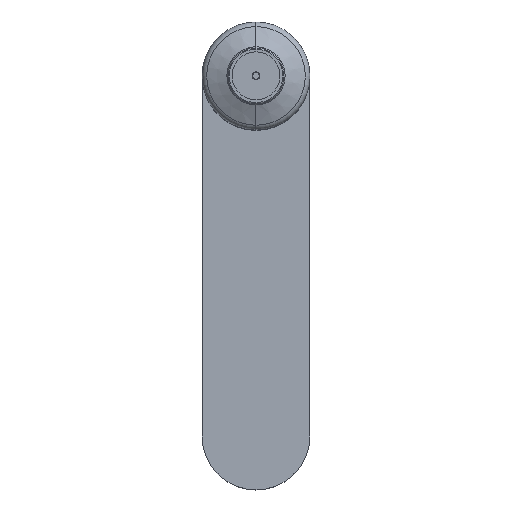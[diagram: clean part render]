
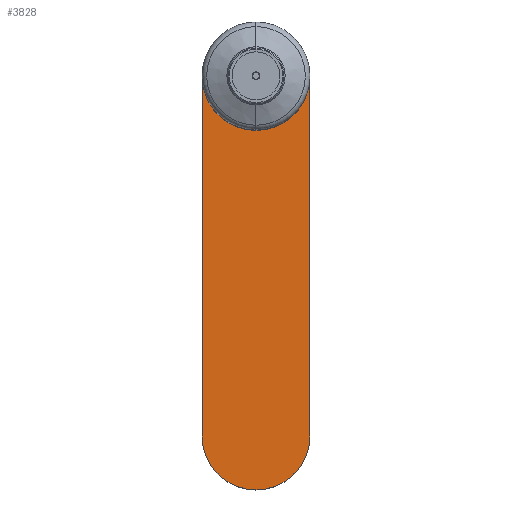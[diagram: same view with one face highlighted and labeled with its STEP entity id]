
A CAD part, top view. The second image highlights one B-rep face of the part: STEP entity #3828.
In plain terms, the highlighted planar face has unit normal (0, 0, 1).
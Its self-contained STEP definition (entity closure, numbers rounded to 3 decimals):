
#519 = LINE ( 'NONE', #9288, #8249 ) ;
#749 = DIRECTION ( 'NONE',  ( 0., -1., 0. ) ) ;
#779 = EDGE_CURVE ( 'NONE', #10882, #5214, #519, .T. ) ;
#1116 = VERTEX_POINT ( 'NONE', #4348 ) ;
#1542 = CARTESIAN_POINT ( 'NONE',  ( -13.5, 0., 15. ) ) ;
#1682 = VERTEX_POINT ( 'NONE', #8818 ) ;
#2254 = CARTESIAN_POINT ( 'NONE',  ( 0., -13.5, 15. ) ) ;
#2512 = CIRCLE ( 'NONE', #3290, 13.5 ) ;
#2540 = ORIENTED_EDGE ( 'NONE', *, *, #11637, .T. ) ;
#2777 = EDGE_LOOP ( 'NONE', ( #2540, #11814, #9075, #9670, #10536 ) ) ;
#2868 = DIRECTION ( 'NONE',  ( 0., 0., -1. ) ) ;
#2937 = CARTESIAN_POINT ( 'NONE',  ( 0., -90., 15. ) ) ;
#3290 = AXIS2_PLACEMENT_3D ( 'NONE', #10497, #4836, #11481 ) ;
#3325 = CARTESIAN_POINT ( 'NONE',  ( 0., -90., 15. ) ) ;
#3828 = ADVANCED_FACE ( 'NONE', ( #4771 ), #11824, .T. ) ;
#3886 = DIRECTION ( 'NONE',  ( 0., 0., 1. ) ) ;
#3916 = EDGE_CURVE ( 'NONE', #5214, #1682, #5232, .T. ) ;
#4055 = CARTESIAN_POINT ( 'NONE',  ( -13.5, -90., 15. ) ) ;
#4348 = CARTESIAN_POINT ( 'NONE',  ( 13.5, 0., 15. ) ) ;
#4771 = FACE_OUTER_BOUND ( 'NONE', #2777, .T. ) ;
#4836 = DIRECTION ( 'NONE',  ( 0., 0., -1. ) ) ;
#4840 = DIRECTION ( 'NONE',  ( 0., -1., 0. ) ) ;
#5214 = VERTEX_POINT ( 'NONE', #4055 ) ;
#5232 = CIRCLE ( 'NONE', #10906, 13.5 ) ;
#5593 = CIRCLE ( 'NONE', #5595, 13.5 ) ;
#5595 = AXIS2_PLACEMENT_3D ( 'NONE', #8431, #2868, #10309 ) ;
#6065 = AXIS2_PLACEMENT_3D ( 'NONE', #3325, #9954, #6186 ) ;
#6186 = DIRECTION ( 'NONE',  ( 0., -1., 0. ) ) ;
#6967 = EDGE_CURVE ( 'NONE', #1116, #9211, #2512, .T. ) ;
#7074 = VECTOR ( 'NONE', #11859, 1000. ) ;
#8249 = VECTOR ( 'NONE', #749, 1000. ) ;
#8431 = CARTESIAN_POINT ( 'NONE',  ( 0., 0., 15. ) ) ;
#8818 = CARTESIAN_POINT ( 'NONE',  ( 13.5, -90., 15. ) ) ;
#9072 = EDGE_CURVE ( 'NONE', #9211, #10882, #5593, .T. ) ;
#9075 = ORIENTED_EDGE ( 'NONE', *, *, #9072, .T. ) ;
#9211 = VERTEX_POINT ( 'NONE', #2254 ) ;
#9288 = CARTESIAN_POINT ( 'NONE',  ( -13.5, 0., 15. ) ) ;
#9670 = ORIENTED_EDGE ( 'NONE', *, *, #779, .T. ) ;
#9954 = DIRECTION ( 'NONE',  ( 0., 0., 1. ) ) ;
#10023 = CARTESIAN_POINT ( 'NONE',  ( 13.5, 0., 15. ) ) ;
#10309 = DIRECTION ( 'NONE',  ( 0., -1., 0. ) ) ;
#10497 = CARTESIAN_POINT ( 'NONE',  ( 0., 0., 15. ) ) ;
#10536 = ORIENTED_EDGE ( 'NONE', *, *, #3916, .T. ) ;
#10882 = VERTEX_POINT ( 'NONE', #1542 ) ;
#10906 = AXIS2_PLACEMENT_3D ( 'NONE', #2937, #3886, #4840 ) ;
#11481 = DIRECTION ( 'NONE',  ( 0., -1., 0. ) ) ;
#11508 = LINE ( 'NONE', #10023, #7074 ) ;
#11637 = EDGE_CURVE ( 'NONE', #1682, #1116, #11508, .T. ) ;
#11814 = ORIENTED_EDGE ( 'NONE', *, *, #6967, .T. ) ;
#11824 = PLANE ( 'NONE',  #6065 ) ;
#11859 = DIRECTION ( 'NONE',  ( 0., 1., 0. ) ) ;
